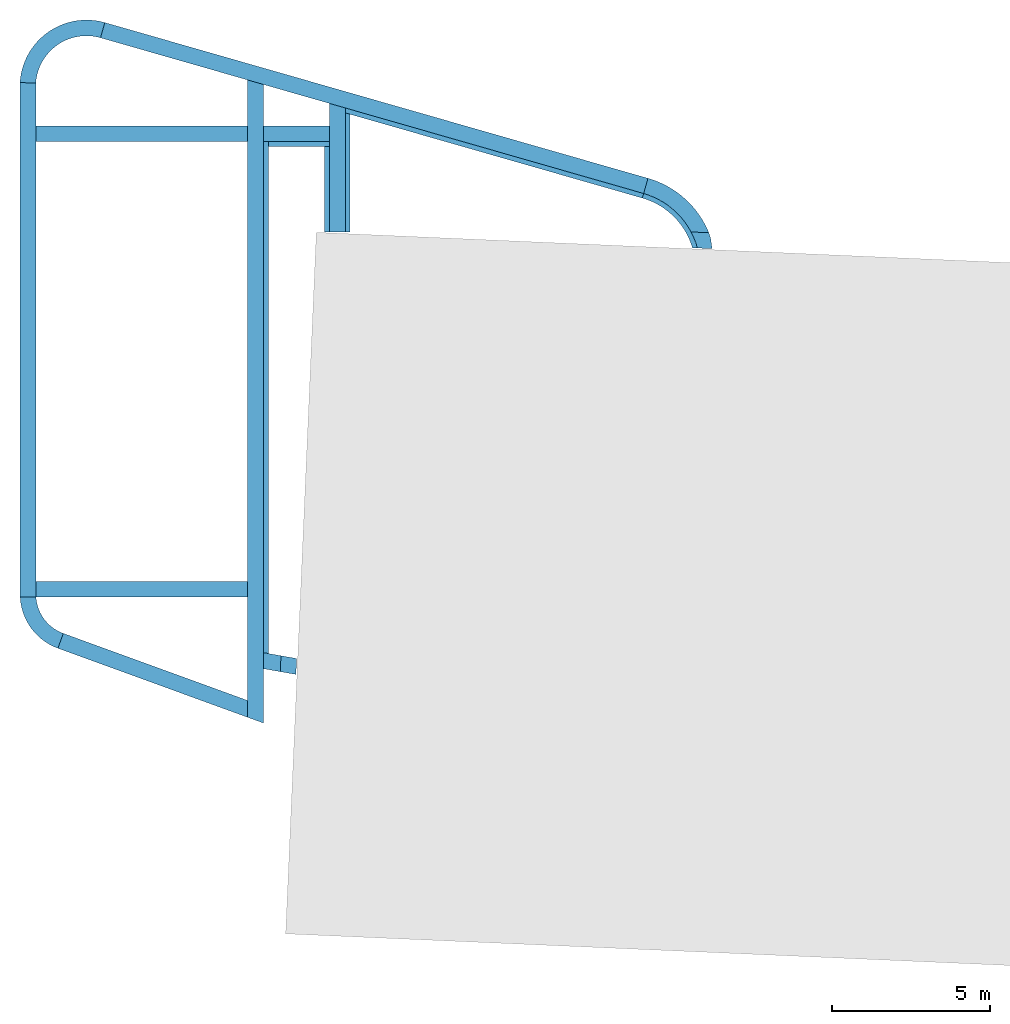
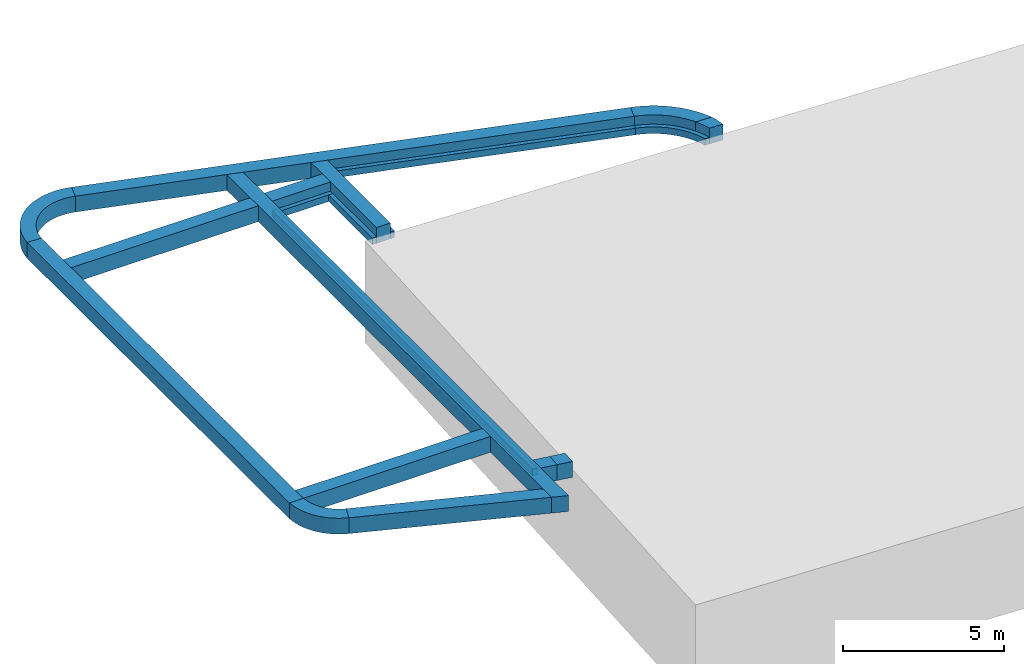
# One storey, part 1 of 2: 19 walls, 6 openings.
"""IFC2X3 building model written with IfcOpenShell, lengths in millimetres."""

import ifcopenshell
import ifcopenshell.guid

model = None  # the IFC model being written
_history = None  # IfcOwnerHistory: only IFC2X3 demands one
_inside = {}  # id of a spatial element -> (the spatial element, [elements in it])
_under = {}  # id of a project, library or spatial element -> (it, [spatial elements below it])
_declared = {}  # id of a project -> (the project, [libraries it declares])
_typed = {}  # id of a type object -> (the type object, [elements of that type])
_made_of = {}  # id of a material, layer set ... -> (it, [elements and type objects made of it])


def new_model(schema):
    """Start an empty IFC model of exactly this schema.

    Asked for "IFC4X3", IfcOpenShell would pick the latest addendum, in which some entities
    have other attributes; the version numbers below select the first issue.
    IFC2X3 requires an IfcOwnerHistory on every rooted entity: one is made here for all.
    """
    global model, _history
    if schema == "IFC4X3":
        model = ifcopenshell.file(schema_version=(4, 3, 0, 0))
    else:
        model = ifcopenshell.file(schema=schema)
    _inside.clear()
    _under.clear()
    _declared.clear()
    _typed.clear()
    _made_of.clear()
    _history = None
    if model.schema == "IFC2X3":
        org = make("IfcOrganization", Name="unknown")
        user = make(
            "IfcPersonAndOrganization",
            ThePerson=make("IfcPerson", FamilyName="unknown"),
            TheOrganization=org,
        )
        app = make(
            "IfcApplication",
            ApplicationDeveloper=org,
            Version="unknown",
            ApplicationFullName="unknown",
            ApplicationIdentifier="unknown",
        )
        _history = make(
            "IfcOwnerHistory",
            OwningUser=user,
            OwningApplication=app,
            ChangeAction="ADDED",
            CreationDate=0,
        )
    return model


def make(cls, **values):
    """One entity of the class cls with the attributes given. An attribute that is None is left unset."""
    return model.create_entity(
        cls, **{name: value for name, value in values.items() if value is not None}
    )


def entity(cls, *values):
    """Any entity or typed value of the class cls, its attributes in the order of the schema. None: left unset."""
    e = model.create_entity(cls)
    for i, value in enumerate(values):
        if value is not None:
            e[i] = value
    return e


def rooted(cls, **values):
    """An entity with a GlobalId (a new one), such as an element, a storey or a relation."""
    return make(cls, GlobalId=ifcopenshell.guid.new(), OwnerHistory=_history, **values)


def si_unit(unit_type, name, prefix=None):
    """IfcSIUnit, for example si_unit("LENGTHUNIT", "METRE", prefix="MILLI")."""
    return make("IfcSIUnit", UnitType=unit_type, Prefix=prefix, Name=name)


def converted_unit(unit_type, name, factor, base, dimensions=None, offset=None):
    """IfcConversionBasedUnit, such as the inch: factor (a typed value) times the base unit."""
    return make(
        "IfcConversionBasedUnit"
        if offset is None
        else "IfcConversionBasedUnitWithOffset",
        ConversionOffset=offset,
        Dimensions=None
        if dimensions is None
        else entity("IfcDimensionalExponents", *dimensions),
        UnitType=unit_type,
        Name=name,
        ConversionFactor=make(
            "IfcMeasureWithUnit", ValueComponent=factor, UnitComponent=base
        ),
    )


def derived_unit(unit_type, elements):
    """IfcDerivedUnit: a product of units, each with its exponent."""
    return make(
        "IfcDerivedUnit",
        Elements=[
            make("IfcDerivedUnitElement", Unit=unit, Exponent=power)
            for unit, power in elements
        ],
        UnitType=unit_type,
    )


def assignment(units):
    """IfcUnitAssignment: the units of a project."""
    return None if units is None else make("IfcUnitAssignment", Units=units)


def point(xyz):
    """IfcCartesianPoint."""
    return None if xyz is None else make("IfcCartesianPoint", Coordinates=xyz)


def direction(xyz):
    """IfcDirection."""
    return None if xyz is None else make("IfcDirection", DirectionRatios=xyz)


def frame(location, z_axis=None, x_axis=None):
    """IfcAxis2Placement3D, a coordinate frame: its origin and axes. An axis left out is left unset."""
    return make(
        "IfcAxis2Placement3D",
        Location=point(location),
        Axis=direction(z_axis),
        RefDirection=direction(x_axis),
    )


def frame_2d(location, x_axis=None):
    """IfcAxis2Placement2D, a coordinate frame in the plane: its origin and x axis."""
    return make(
        "IfcAxis2Placement2D", Location=point(location), RefDirection=direction(x_axis)
    )


def origin():
    """The frame at (0, 0, 0) with its axes left unset."""
    return frame((0.0, 0.0, 0.0))


def origin_2d_with_axis():
    """The frame at (0, 0) in the plane with the x axis (1, 0) written out."""
    return frame_2d((0.0, 0.0), x_axis=(1.0, 0.0))


def place(relative_to, where):
    """IfcLocalPlacement: puts the frame where relative to a parent placement (None: the world)."""
    return make(
        "IfcLocalPlacement", PlacementRelTo=relative_to, RelativePlacement=where
    )


def context(
    kind, dimensions, precision=None, world=None, true_north=None, identifier=None
):
    """IfcGeometricRepresentationContext, for example the 3D "Model" context."""
    return make(
        "IfcGeometricRepresentationContext",
        ContextIdentifier=identifier,
        ContextType=kind,
        CoordinateSpaceDimension=dimensions,
        Precision=precision,
        WorldCoordinateSystem=world,
        TrueNorth=true_north,
    )


def subcontext(parent, identifier, kind, view, scale=None):
    """IfcGeometricRepresentationSubContext, for example "Body" below "Model"."""
    return make(
        "IfcGeometricRepresentationSubContext",
        ContextIdentifier=identifier,
        ContextType=kind,
        ParentContext=parent,
        TargetScale=scale,
        TargetView=view,
    )


def project(units=None, contexts=None):
    """IfcProject with its units and contexts."""
    return rooted(
        "IfcProject",
        Name="project",
        RepresentationContexts=contexts,
        UnitsInContext=assignment(units),
    )


def spatial(cls, under=None, at=None, **own):
    """A site, building, storey or space (cls), placed at a placement, below another one or the project."""
    s = rooted(cls, ObjectPlacement=at, **own)
    if under is not None:
        _under.setdefault(under.id(), (under, []))[1].append(s)
    return s


def polyline(points):
    """IfcPolyline through the points."""
    return make("IfcPolyline", Points=[point(p) for p in points])


def circle_curve(where, radius):
    """IfcCircle in the frame where."""
    return make("IfcCircle", Position=where, Radius=radius)


def parameter(value):
    """IfcParameterValue: where a trimmed curve begins or ends, as a parameter of its basis curve."""
    return model.create_entity("IfcParameterValue", value)


def trimmed(basis, trim1, trim2, sense, master):
    """IfcTrimmedCurve: the piece of a basis curve between two trims."""
    return make(
        "IfcTrimmedCurve",
        BasisCurve=basis,
        Trim1=trim1,
        Trim2=trim2,
        SenseAgreement=sense,
        MasterRepresentation=master,
    )


def segment(curve, same_sense, transition):
    """IfcCompositeCurveSegment."""
    return make(
        "IfcCompositeCurveSegment",
        Transition=transition,
        SameSense=same_sense,
        ParentCurve=curve,
    )


def composite_curve(segments, self_intersect=None):
    """IfcCompositeCurve: segments joined end to end."""
    return make("IfcCompositeCurve", Segments=segments, SelfIntersect=self_intersect)


def profile(cls, at=None, kind="AREA", **sizes):
    """A parametric profile (cls). Its sizes go by their IFC names, for example OverallWidth=200.0."""
    return make(cls, ProfileType=kind, Position=at, **sizes)


def rectangle(**sizes):
    """IfcRectangleProfileDef."""
    return profile("IfcRectangleProfileDef", **sizes)


def outline(outer, holes=None, kind="AREA"):
    """IfcArbitraryClosedProfileDef: a profile drawn as a closed curve; with holes, ...WithVoids."""
    if holes is None:
        return make("IfcArbitraryClosedProfileDef", ProfileType=kind, OuterCurve=outer)
    return make(
        "IfcArbitraryProfileDefWithVoids",
        ProfileType=kind,
        OuterCurve=outer,
        InnerCurves=holes,
    )


def extrude(swept, where, along, depth):
    """IfcExtrudedAreaSolid: the profile swept, set in the frame where, extruded along a direction by depth."""
    return make(
        "IfcExtrudedAreaSolid",
        SweptArea=swept,
        Position=where,
        ExtrudedDirection=direction(along),
        Depth=depth,
    )


def shape(context_of_items, identifier, shape_type, items):
    """IfcShapeRepresentation: the items that make up one representation, for example the "Body"."""
    return make(
        "IfcShapeRepresentation",
        ContextOfItems=context_of_items,
        RepresentationIdentifier=identifier,
        RepresentationType=shape_type,
        Items=items,
    )


def material(Name=None, Category=None):
    """IfcMaterial."""
    return make("IfcMaterial", Name=Name, Category=Category)


def layer(
    of_material, thickness, ventilated=None, Name=None, Category=None, Priority=None
):
    """IfcMaterialLayer: one layer of a wall or slab, of a material (None: an air gap)."""
    return make(
        "IfcMaterialLayer",
        Material=of_material,
        LayerThickness=thickness,
        IsVentilated=ventilated,
        Name=Name,
        Category=Category,
        Priority=Priority,
    )


def layer_set(layers, Name=None):
    """IfcMaterialLayerSet."""
    return make("IfcMaterialLayerSet", MaterialLayers=layers, LayerSetName=Name)


def layer_usage(for_layer_set, set_direction, sense, offset, extent=None):
    """IfcMaterialLayerSetUsage: how a layer set lies in its element."""
    return make(
        "IfcMaterialLayerSetUsage",
        ForLayerSet=for_layer_set,
        LayerSetDirection=set_direction,
        DirectionSense=sense,
        OffsetFromReferenceLine=offset,
        ReferenceExtent=extent,
    )


def made_of(thing, what):
    """Note that an element or type object is made of a material, layer set ...; save() writes the relation."""
    if what is not None:
        _made_of.setdefault(what.id(), (what, []))[1].append(thing)
    return thing


def type_object(cls, material=None, **own):
    """A type object (cls), such as IfcWallType, which elements share."""
    return made_of(rooted(cls, **own), material)


def element(
    cls,
    number,
    at=None,
    inside=None,
    cuts=None,
    type_object=None,
    material=None,
    context=None,
    identifier="Body",
    shape_type=None,
    held_by="IfcProductDefinitionShape",
    body=None,
    shapes=None,
    **own,
):
    """One element of the class cls, such as IfcWall. Its Tag is "e" and its number.

    at: its placement. inside: the storey or other place that contains it. cuts: it is an
    opening in that element (IfcRelVoidsElement). A single representation is given by context,
    identifier, shape_type and body (its items); several are given by shapes. held_by: the class
    of the entity that holds the representations. save() writes the other relations.
    """
    e = rooted(cls, Tag="e%d" % number, ObjectPlacement=at, **own)
    if body is not None:
        shapes = [shape(context, identifier, shape_type, body)]
    if shapes is not None:
        e.Representation = make(held_by, Representations=shapes)
    if inside is not None:
        _inside.setdefault(inside.id(), (inside, []))[1].append(e)
    if cuts is not None:
        rooted(
            "IfcRelVoidsElement", RelatingBuildingElement=cuts, RelatedOpeningElement=e
        )
    if type_object is not None:
        _typed.setdefault(type_object.id(), (type_object, []))[1].append(e)
    return made_of(e, material)


def aggregate(whole, parts):
    """IfcRelAggregates: a whole, such as a stair, and the parts it consists of."""
    return rooted("IfcRelAggregates", RelatingObject=whole, RelatedObjects=parts)


def save(model, path):
    """Write the relations noted so far, then the file.

    IfcRelAggregates (storeys below a building ...), IfcRelContainedInSpatialStructure (elements
    in a storey), IfcRelDefinesByType, IfcRelAssociatesMaterial and IfcRelDeclares: one each for
    every whole, place, type object, material and project.
    """
    for whole, parts in _under.values():
        aggregate(whole, parts)
    for where, things in _inside.values():
        rooted(
            "IfcRelContainedInSpatialStructure",
            RelatedElements=things,
            RelatingStructure=where,
        )
    for kind, things in _typed.values():
        rooted("IfcRelDefinesByType", RelatedObjects=things, RelatingType=kind)
    for what, things in _made_of.values():
        rooted("IfcRelAssociatesMaterial", RelatedObjects=things, RelatingMaterial=what)
    for by, libraries in _declared.values():
        rooted("IfcRelDeclares", RelatingContext=by, RelatedDefinitions=libraries)
    model.write(path)


model = new_model("IFC2X3")

# Units and contexts
model_context = context("Model", 3, precision=0.01, world=origin(), true_north=direction((6.12303176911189e-17, 1.0)))
context_of_model = context(None, 3, precision=0.01, world=origin(), true_north=direction((6.12303176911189e-17, 1.0)))
body_context = subcontext(model_context, "Body", "Model", "MODEL_VIEW")
ifc_project = project(units=[si_unit("LENGTHUNIT", "METRE", prefix="MILLI"), si_unit("AREAUNIT", "SQUARE_METRE"), si_unit("VOLUMEUNIT", "CUBIC_METRE"), converted_unit("PLANEANGLEUNIT", "DEGREE", entity("IfcRatioMeasure", 0.0174532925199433), si_unit("PLANEANGLEUNIT", "RADIAN"), dimensions=[0, 0, 0, 0, 0, 0, 0]), si_unit("MASSUNIT", "GRAM", prefix="KILO"), derived_unit("MASSDENSITYUNIT", [(si_unit("MASSUNIT", "GRAM", prefix="KILO"), 1), (si_unit("LENGTHUNIT", "METRE"), -3)]), derived_unit("MOMENTOFINERTIAUNIT", [(si_unit("LENGTHUNIT", "METRE"), 4)]), si_unit("TIMEUNIT", "SECOND"), si_unit("FREQUENCYUNIT", "HERTZ"), si_unit("THERMODYNAMICTEMPERATUREUNIT", "DEGREE_CELSIUS"), derived_unit("THERMALTRANSMITTANCEUNIT", [(si_unit("MASSUNIT", "GRAM", prefix="KILO"), 1), (si_unit("THERMODYNAMICTEMPERATUREUNIT", "KELVIN"), -1), (si_unit("TIMEUNIT", "SECOND"), -3)]), derived_unit("VOLUMETRICFLOWRATEUNIT", [(si_unit("LENGTHUNIT", "METRE"), 3), (si_unit("TIMEUNIT", "SECOND"), -1)]), si_unit("ELECTRICCURRENTUNIT", "AMPERE"), si_unit("ELECTRICVOLTAGEUNIT", "VOLT"), si_unit("POWERUNIT", "WATT"), si_unit("FORCEUNIT", "NEWTON", prefix="KILO"), si_unit("ILLUMINANCEUNIT", "LUX"), si_unit("LUMINOUSFLUXUNIT", "LUMEN"), si_unit("LUMINOUSINTENSITYUNIT", "CANDELA"), derived_unit("USERDEFINED", [(si_unit("MASSUNIT", "GRAM", prefix="KILO"), -1), (si_unit("LENGTHUNIT", "METRE"), -2), (si_unit("TIMEUNIT", "SECOND"), 3), (si_unit("LUMINOUSFLUXUNIT", "LUMEN"), 1)]), derived_unit("LINEARVELOCITYUNIT", [(si_unit("LENGTHUNIT", "METRE"), 1), (si_unit("TIMEUNIT", "SECOND"), -1)]), si_unit("PRESSUREUNIT", "PASCAL"), derived_unit("USERDEFINED", [(si_unit("LENGTHUNIT", "METRE"), -2), (si_unit("MASSUNIT", "GRAM", prefix="KILO"), 1), (si_unit("TIMEUNIT", "SECOND"), -2)]), derived_unit("LINEARFORCEUNIT", [(si_unit("MASSUNIT", "GRAM", prefix="KILO"), 1), (si_unit("LENGTHUNIT", "METRE"), 1), (si_unit("TIMEUNIT", "SECOND"), -2), (si_unit("LENGTHUNIT", "METRE"), -1)]), derived_unit("PLANARFORCEUNIT", [(si_unit("MASSUNIT", "GRAM", prefix="KILO"), 1), (si_unit("LENGTHUNIT", "METRE"), 1), (si_unit("TIMEUNIT", "SECOND"), -2), (si_unit("LENGTHUNIT", "METRE"), -2)])], contexts=[model_context, context_of_model])

# Site, building, storey
site_placement = place(None, origin())
site = spatial("IfcSite", under=ifc_project, at=site_placement, Name="Default", CompositionType="ELEMENT")
building_placement = place(site_placement, origin())
building = spatial("IfcBuilding", under=site, at=building_placement, Name="IFc", CompositionType="ELEMENT")
storey_placement = place(building_placement, frame((0.0, 0.0, -4000.0)))
storey = spatial("IfcBuildingStorey", under=building, at=storey_placement, Name="-01 kelder", CompositionType="ELEMENT", Elevation=-4000.0)

# Walls
ifc_material = material(Name="IMd_beton_IHWG")
ifc_layer_1 = layer(ifc_material, 500.0)
ifc_layer_set_1 = layer_set([ifc_layer_1], Name="Basic Wall:NLRS_16_WA Funderingsbalk_beton_ihwg_500x600")
ifc_layer_usage_1 = layer_usage(ifc_layer_set_1, "AXIS2", "NEGATIVE", 250.0)
wall_type_1 = type_object("IfcWallType", Name="Basic Wall:NLRS_16_WA Funderingsbalk_beton_ihwg_500x600", PredefinedType="STANDARD", material=ifc_layer_set_1)
wall_1_placement = place(storey_placement, frame((9975.0, 9742.36620902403, 2860.0), z_axis=(0.0, 0.0, 1.0), x_axis=(0.0, 1.0, 0.0)))
element("IfcWallStandardCase", 1, at=wall_1_placement, inside=storey, type_object=wall_type_1, material=ifc_layer_usage_1, Name="Basic Wall:NLRS_16_WA Funderingsbalk_beton_ihwg_500x600", ObjectType="Basic Wall:NLRS_16_WA Funderingsbalk_beton_ihwg_500x600", context=body_context, shape_type="SweptSolid", body=[
    extrude(outline(composite_curve([segment(polyline([(-278.974140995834, -6930.29688989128), (-273.394417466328, -6930.29688989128)]), True, "CONTINUOUS"), segment(trimmed(circle_curve(frame_2d((1540.26098666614, -6833.29525455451), x_axis=(1.0, 0.0)), 1816.2475718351), [parameter(182.82035819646)], [parameter(183.061493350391)], True, "PARAMETER"), False, "CONTINUOUS"), segment(polyline([(-273.786595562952, -6922.66309891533), (221.025859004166, -6922.66309891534)]), True, "CONTINUOUS"), segment(polyline([(221.025859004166, -6922.66309891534), (221.025859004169, -6422.66309891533)]), True, "CONTINUOUS"), segment(polyline([(221.025859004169, -6422.66309891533), (221.025859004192, 7477.33690108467)]), True, "CONTINUOUS"), segment(polyline([(221.025859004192, 7477.33690108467), (221.025859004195, 7977.33690108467)]), True, "CONTINUOUS"), segment(polyline([(221.025859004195, 7977.33690108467), (221.025859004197, 9328.86361493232)]), True, "CONTINUOUS"), segment(polyline([(221.025859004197, 9328.86361493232), (-278.974140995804, 9345.04565942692)]), True, "CONTINUOUS"), segment(polyline([(-278.974140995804, 9345.04565942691), (-278.974140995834, -6930.29688989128)]), True, "CONTINUOUS")], self_intersect=False)), frame((6930.29688989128, -28.9741409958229, 0.0), z_axis=(0.0, 0.0, 1.0), x_axis=(0.0, -1.0, 0.0)), (0.0, 0.0, 1.0), 600.0),
])
ifc_layer_usage_2 = layer_usage(ifc_layer_set_1, "AXIS2", "NEGATIVE", 250.0)
wall_2_placement = place(storey_placement, frame((12338.8220151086, 27674.3312293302, 2860.0), z_axis=(0.0, 0.0, 1.0), x_axis=(0.961261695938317, -0.275637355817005, 0.0)))
element("IfcWallStandardCase", 2, at=wall_2_placement, inside=storey, type_object=wall_type_1, material=ifc_layer_usage_2, Name="Basic Wall:NLRS_16_WA Funderingsbalk_beton_ihwg_500x600", ObjectType="Basic Wall:NLRS_16_WA Funderingsbalk_beton_ihwg_500x600", context=body_context, shape_type="SweptSolid", body=[
    extrude(rectangle(XDim=17864.4900576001, YDim=500.000000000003, at=frame_2d((8932.24502880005, 5.11590769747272e-13), x_axis=(-1.0, 0.0))), origin(), (0.0, 0.0, 1.0), 600.0),
])
ifc_layer_usage_3 = layer_usage(ifc_layer_set_1, "AXIS2", "NEGATIVE", 250.0)
wall_3_placement = place(storey_placement, frame((11008.5469086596, 8367.57655878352, 2860.0), z_axis=(0.0, 0.0, 1.0), x_axis=(0.939692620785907, -0.342020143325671, 0.0)))
element("IfcWallStandardCase", 3, at=wall_3_placement, inside=storey, type_object=wall_type_1, material=ifc_layer_usage_3, Name="Basic Wall:NLRS_16_WA Funderingsbalk_beton_ihwg_500x600", ObjectType="Basic Wall:NLRS_16_WA Funderingsbalk_beton_ihwg_500x600", context=body_context, shape_type="SweptSolid", body=[
    extrude(outline(polyline([(6387.15043026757, -250.0), (6205.16531313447, 250.0), (0.0, 250.0), (0.0, -250.0), (6387.15043026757, -250.0)])), origin(), (0.0, 0.0, 1.0), 600.0),
])
ifc_layer_usage_4 = layer_usage(ifc_layer_set_1, "AXIS2", "POSITIVE", -250.0)
wall_4_placement = place(storey_placement, frame((9974.54103596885, 26002.5670488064, 2860.0)))
element("IfcWallStandardCase", 4, at=wall_4_placement, inside=storey, type_object=wall_type_1, material=ifc_layer_usage_4, Name="Basic Wall:NLRS_16_WA Funderingsbalk_beton_ihwg_500x600", ObjectType="Basic Wall:NLRS_16_WA Funderingsbalk_beton_ihwg_500x600", context=body_context, shape_type="SweptSolid", body=[
    extrude(outline(composite_curve([segment(trimmed(circle_curve(frame_2d((1852.67524021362, -112.417062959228), x_axis=(1.0, 0.0)), 2106.08274108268), [parameter(74.0000000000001)], [parameter(176.52765062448)], True, "PARAMETER"), True, "CONTINUOUS"), segment(polyline([(-249.541035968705, 15.1417095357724), (250.458964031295, -1.04033495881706)]), True, "CONTINUOUS"), segment(trimmed(circle_curve(frame_2d((1852.67524021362, -112.417062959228), x_axis=(1.0, 0.0)), 1606.08274108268), [parameter(74.0000000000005)], [parameter(176.023528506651)], True, "PARAMETER"), False, "CONTINUOUS"), segment(polyline([(2295.37164018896, 1431.44875655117), (2433.19031809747, 1912.07960452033)]), True, "CONTINUOUS")], self_intersect=False)), origin(), (0.0, 0.0, 1.0), 600.0),
])
ifc_layer_usage_5 = layer_usage(ifc_layer_set_1, "AXIS2", "POSITIVE", -250.0)
wall_5_placement = place(storey_placement, frame((11008.5469086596, 8367.5765587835, 2860.0)))
element("IfcWallStandardCase", 5, at=wall_5_placement, inside=storey, type_object=wall_type_1, material=ifc_layer_usage_5, Name="Basic Wall:NLRS_16_WA Funderingsbalk_beton_ihwg_500x600", ObjectType="Basic Wall:NLRS_16_WA Funderingsbalk_beton_ihwg_500x600", context=body_context, shape_type="SweptSolid", body=[
    extrude(outline(composite_curve([segment(polyline([(-1278.35936322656, 1382.42344121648), (-1278.16706997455, 1378.60205418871)]), True, "CONTINUOUS"), segment(polyline([(-1278.16706997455, 1378.60205418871), (-1277.96531871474, 1374.77321651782)]), True, "CONTINUOUS"), segment(polyline([(-1277.96531871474, 1374.77321651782), (-1263.57093123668, 1223.95716266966)]), True, "CONTINUOUS"), segment(polyline([(-1263.57093123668, 1223.95716266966), (-1236.65189549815, 1074.84574683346)]), True, "CONTINUOUS"), segment(polyline([(-1236.65189549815, 1074.84574683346), (-1197.39763269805, 928.497007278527)]), True, "CONTINUOUS"), segment(polyline([(-1197.39763269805, 928.497007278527), (-1146.08134519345, 785.929510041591)]), True, "CONTINUOUS"), segment(polyline([(-1146.08134519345, 785.929510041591), (-1083.06018531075, 648.135504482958)]), True, "CONTINUOUS"), segment(polyline([(-1083.06018531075, 648.135504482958), (-1008.7727696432, 516.074017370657)]), True, "CONTINUOUS"), segment(polyline([(-1008.7727696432, 516.074017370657), (-923.736126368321, 390.664178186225)]), True, "CONTINUOUS"), segment(polyline([(-923.736126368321, 390.664178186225), (-828.542096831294, 272.778822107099)]), True, "CONTINUOUS"), segment(polyline([(-828.542096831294, 272.778822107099), (-723.853216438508, 163.238415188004)]), True, "CONTINUOUS"), segment(polyline([(-723.853216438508, 163.238415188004), (-610.398103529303, 62.8053440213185)]), True, "CONTINUOUS"), segment(polyline([(-610.398103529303, 62.8053440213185), (-488.966388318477, -27.8213903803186)]), True, "CONTINUOUS"), segment(polyline([(-488.966388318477, -27.8213903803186), (-360.403217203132, -108.011037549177)]), True, "CONTINUOUS"), segment(polyline([(-360.403217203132, -108.011037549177), (-225.603373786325, -177.205486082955)]), True, "CONTINUOUS"), segment(polyline([(-225.603373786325, -177.205486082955), (-85.5050358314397, -234.923155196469)]), True, "CONTINUOUS"), segment(polyline([(-85.5050358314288, -234.923155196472), (85.505035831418, 234.923155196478)]), True, "CONTINUOUS"), segment(trimmed(circle_curve(frame_2d((535.688219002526, 1471.79128557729), x_axis=(1.0, 0.0)), 1316.2475718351), [parameter(183.893144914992)], [parameter(250.0)], True, "PARAMETER"), False, "CONTINUOUS"), segment(polyline([(-777.521992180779, 1382.42344121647), (-783.546908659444, 1382.42344121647)]), True, "CONTINUOUS"), segment(polyline([(-783.546908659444, 1382.42344121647), (-1278.35936322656, 1382.42344121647)]), True, "CONTINUOUS")], self_intersect=False)), origin(), (0.0, 0.0, 1.0), 600.0),
])
ifc_layer_usage_6 = layer_usage(ifc_layer_set_1, "AXIS2", "POSITIVE", -250.0)
wall_6_placement = place(storey_placement, frame((29511.2720249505, 22750.2104268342, 2860.0)))
element("IfcWallStandardCase", 6, at=wall_6_placement, inside=storey, type_object=wall_type_1, material=ifc_layer_usage_6, Name="Basic Wall:NLRS_16_WA Funderingsbalk_beton_ihwg_500x600", ObjectType="Basic Wall:NLRS_16_WA Funderingsbalk_beton_ihwg_500x600", context=body_context, shape_type="SweptSolid", body=[
    extrude(outline(composite_curve([segment(trimmed(circle_curve(frame_2d((-748.355421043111, -2609.82550447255), x_axis=(1.0, 0.0)), 2965.0), [parameter(22.4073809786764)], [parameter(73.9999999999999)], True, "PARAMETER"), True, "CONTINUOUS"), segment(polyline([(68.9093389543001, 240.315423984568), (-68.9093389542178, -240.315423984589)]), True, "CONTINUOUS"), segment(trimmed(circle_curve(frame_2d((-748.355421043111, -2609.82550447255), x_axis=(1.0, 0.0)), 2465.0), [parameter(27.9370449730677)], [parameter(74.0000000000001)], True, "PARAMETER"), False, "CONTINUOUS"), segment(polyline([(1429.38063289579, -1454.9702410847), (1992.77799285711, -1479.59870988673)]), True, "CONTINUOUS")], self_intersect=False)), origin(), (0.0, 0.0, 1.0), 600.0),
])
ifc_layer_usage_7 = layer_usage(ifc_layer_set_1, "AXIS2", "NEGATIVE", 250.0)
wall_7_placement = place(storey_placement, frame((17175.0, 5766.1341808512, 2860.0), z_axis=(0.0, 0.0, 1.0), x_axis=(0.0, 1.0, 0.0)))
element("IfcWallStandardCase", 7, at=wall_7_placement, inside=storey, type_object=wall_type_1, material=ifc_layer_usage_7, Name="Basic Wall:NLRS_16_WA Funderingsbalk_beton_ihwg_500x600", ObjectType="Basic Wall:NLRS_16_WA Funderingsbalk_beton_ihwg_500x600", context=body_context, shape_type="SweptSolid", body=[
    extrude(outline(polyline([(20189.6841211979, -250.0), (20333.0568140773, 250.0), (18883.8658191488, 250.0), (18383.8658191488, 250.0), (4483.86581914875, 250.0), (3983.86581914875, 250.0), (714.07400337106, 250.0), (181.985117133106, 250.0), (0.0, -250.0), (1719.10922740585, -250.0), (2226.80074051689, -250.0), (18383.8658191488, -250.0), (18883.8658191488, -250.0), (20189.6841211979, -250.0)])), origin(), (0.0, 0.0, 1.0), 600.0),
])
ifc_layer_usage_8 = layer_usage(ifc_layer_set_1, "AXIS2", "NEGATIVE", 250.0)
wall_8_placement = place(storey_placement, frame((16925.0, 10000.0, 2860.0), z_axis=(0.0, 0.0, 1.0), x_axis=(-1.0, 0.0, 0.0)))
element("IfcWallStandardCase", 8, at=wall_8_placement, inside=storey, type_object=wall_type_1, material=ifc_layer_usage_8, Name="Basic Wall:NLRS_16_WA Funderingsbalk_beton_ihwg_500x600", ObjectType="Basic Wall:NLRS_16_WA Funderingsbalk_beton_ihwg_500x600", context=body_context, shape_type="SweptSolid", body=[
    extrude(rectangle(XDim=6700.0, YDim=499.999999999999, at=frame_2d((3350.0, 3.83693077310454e-13), x_axis=(-1.0, 0.0))), origin(), (0.0, 0.0, 1.0), 600.0),
])

# Wall, opening
ifc_layer_usage_9 = layer_usage(ifc_layer_set_1, "AXIS2", "NEGATIVE", 250.0)
wall_9_placement = place(storey_placement, frame((19509.6696056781, 24400.0, 2860.0), z_axis=(0.0, 0.0, 1.0), x_axis=(-1.0, 0.0, 0.0)))
wall_9 = element("IfcWallStandardCase", 9, at=wall_9_placement, inside=storey, type_object=wall_type_1, material=ifc_layer_usage_9, Name="Basic Wall:NLRS_16_WA Funderingsbalk_beton_ihwg_500x600", ObjectType="Basic Wall:NLRS_16_WA Funderingsbalk_beton_ihwg_500x600", context=body_context, shape_type="SweptSolid", body=[
    extrude(rectangle(XDim=9284.66960567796, YDim=499.999999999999, at=frame_2d((4642.33480283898, -1.77635683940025e-12), x_axis=(-1.0, 0.0))), origin(), (0.0, 0.0, 1.0), 600.0),
])
opening_1_placement = place(storey_placement, frame((19509.6696056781, 24400.0, 2860.0), z_axis=(0.0, 0.0, 1.0), x_axis=(-1.0, 0.0, 0.0)))
element("IfcOpeningElement", 10, at=opening_1_placement, cuts=wall_9, Name="Basic Wall:NLRS_16_WA Funderingsbalk_beton_ihwg_500x600:1", ObjectType="Opening", context=body_context, shape_type="SweptSolid", body=[
    extrude(rectangle(XDim=600.0, YDim=499.999999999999, at=origin_2d_with_axis()), frame((2584.66960567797, 0.0, 300.0), z_axis=(-1.0, 0.0, 0.0), x_axis=(0.0, 0.0, 1.0)), (0.0, 0.0, 1.0), 499.999999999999),
])

# Wall
ifc_layer_usage_10 = layer_usage(ifc_layer_set_1, "AXIS2", "NEGATIVE", 250.0)
wall_10_placement = place(storey_placement, frame((19759.6696056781, 21297.7376053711, 2860.0), z_axis=(0.0, 0.0, 1.0), x_axis=(0.0, 1.0, 0.0)))
element("IfcWallStandardCase", 11, at=wall_10_placement, inside=storey, type_object=wall_type_1, material=ifc_layer_usage_10, Name="Basic Wall:NLRS_16_WA Funderingsbalk_beton_ihwg_500x600", ObjectType="Basic Wall:NLRS_16_WA Funderingsbalk_beton_ihwg_500x600", context=body_context, shape_type="SweptSolid", body=[
    extrude(outline(polyline([(3916.93861353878, -250.0), (4060.31130641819, 250.0), (3352.26239462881, 250.0), (2852.26239462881, 250.0), (2702.26239462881, 250.0), (0.0, 250.0), (0.0, -250.0), (3916.93861353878, -250.0)])), origin(), (0.0, 0.0, 1.0), 600.0),
])

# Wall, opening
ifc_layer_usage_11 = layer_usage(ifc_layer_set_1, "AXIS2", "NEGATIVE", 250.0)
wall_11_placement = place(storey_placement, frame((17381.6479341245, 7746.72241481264, 2860.0), z_axis=(0.0, 0.0, 1.0), x_axis=(0.984850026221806, -0.173408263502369, 0.0)))
wall_11 = element("IfcWallStandardCase", 12, at=wall_11_placement, inside=storey, type_object=wall_type_1, material=ifc_layer_usage_11, Name="Basic Wall:NLRS_16_WA Funderingsbalk_beton_ihwg_500x600", ObjectType="Basic Wall:NLRS_16_WA Funderingsbalk_beton_ihwg_500x600", context=body_context, shape_type="SweptSolid", body=[
    extrude(outline(polyline([(625.412300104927, -250.0), (559.737003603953, 250.0), (510.432201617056, 250.0), (152.307453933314, 250.0), (0.0, 250.0), (88.0379036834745, -250.0), (625.412300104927, -250.0)])), origin(), (0.0, 0.0, 1.0), 600.0),
])
opening_2_placement = place(wall_11_placement, origin())
element("IfcOpeningElement", 13, at=opening_2_placement, cuts=wall_11, Name="Basic Wall:NLRS_16_WA Funderingsbalk_beton_ihwg_500x600", ObjectType="Recess", context=body_context, shape_type="SweptSolid", body=[
    extrude(rectangle(XDim=700.000000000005, YDim=565.452211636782, at=frame_2d((1.05160324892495e-12, 8.5265128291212e-14), x_axis=(0.0, 1.0))), frame((793.158299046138, 249.931125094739, 350.0), z_axis=(0.000243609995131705, 0.999999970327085, 0.0), x_axis=(0.999999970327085, -0.000243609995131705, 0.0)), (0.0, 0.0, 1.0), 140.000000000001),
])

# Wall, openings
ifc_layer_usage_12 = layer_usage(ifc_layer_set_1, "AXIS2", "NEGATIVE", 250.0)
wall_12_placement = place(storey_placement, frame((30929.7345330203, 21045.478710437, 2860.0), z_axis=(0.0, 0.0, 1.0), x_axis=(0.999045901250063, -0.0436724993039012, 0.0)))
wall_12 = element("IfcWallStandardCase", 14, at=wall_12_placement, inside=storey, type_object=wall_type_1, material=ifc_layer_usage_12, Name="Basic Wall:NLRS_16_WA Funderingsbalk_beton_ihwg_500x600", ObjectType="Basic Wall:NLRS_16_WA Funderingsbalk_beton_ihwg_500x600", context=body_context, shape_type="SweptSolid", body=[
    extrude(outline(composite_curve([segment(trimmed(circle_curve(frame_2d((-2125.22286300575, -998.860593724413), x_axis=(0.999045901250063, 0.0436724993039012)), 2465.0), [parameter(15.1827813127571)], [parameter(27.9370449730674)], True, "PARAMETER"), False, "CONTINUOUS"), segment(polyline([(223.272998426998, -250.0), (690.153549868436, -250.0)]), True, "CONTINUOUS"), segment(polyline([(690.153549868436, -250.0), (628.727940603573, 79.1482863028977)]), True, "CONTINUOUS"), segment(polyline([(628.727940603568, 79.148286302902), (563.935410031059, 250.0)]), True, "CONTINUOUS"), segment(polyline([(563.935410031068, 250.0), (0.0, 250.0)]), True, "CONTINUOUS")], self_intersect=False)), origin(), (0.0, 0.0, 1.0), 600.0),
])
opening_3_placement = place(wall_12_placement, origin())
element("IfcOpeningElement", 15, at=opening_3_placement, cuts=wall_12, Name="Basic Wall:NLRS_16_WA Funderingsbalk_beton_ihwg_500x600", ObjectType="Recess", context=body_context, shape_type="SweptSolid", body=[
    extrude(rectangle(XDim=700.000000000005, YDim=139.999999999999, at=frame_2d((-2.1458390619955e-12, -8.5265128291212e-14), x_axis=(0.0, 1.0))), frame((770.544514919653, -299.204049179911, 350.0), z_axis=(-0.183452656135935, 0.983028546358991, 0.0), x_axis=(-0.983028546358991, -0.183452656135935, 0.0)), (0.0, 0.0, 1.0), 397.947773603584),
])
opening_4_placement = place(wall_12_placement, origin())
element("IfcOpeningElement", 16, at=opening_4_placement, cuts=wall_12, Name="Basic Wall:NLRS_16_WA Funderingsbalk_beton_ihwg_500x600", ObjectType="Recess", context=body_context, shape_type="SweptSolid", body=[
    extrude(rectangle(XDim=700.000000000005, YDim=139.999999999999, at=frame_2d((4.79616346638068e-12, 8.5265128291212e-14), x_axis=(0.0, 1.0))), frame((742.163932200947, -22.5608493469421, 350.0), z_axis=(-0.354590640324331, 0.935021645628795, 0.0), x_axis=(-0.935021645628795, -0.354590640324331, 0.0)), (0.0, 0.0, 1.0), 318.048459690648),
])

ifc_layer_usage_13 = layer_usage(ifc_layer_set_1, "AXIS2", "NEGATIVE", 250.0)
wall_13_placement = place(storey_placement, frame((18201.1207165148, 7315.39611377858, 2860.0), z_axis=(0.0, 0.0, 1.0), x_axis=(0.0436724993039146, 0.999045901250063, 0.0)))
wall_13 = element("IfcWallStandardCase", 17, at=wall_13_placement, inside=storey, type_object=wall_type_1, material=ifc_layer_usage_13, Name="Basic Wall:NLRS_16_WA Funderingsbalk_beton_ihwg_500x600", ObjectType="Basic Wall:NLRS_16_WA Funderingsbalk_beton_ihwg_500x600", context=body_context, shape_type="SweptSolid", body=[
    extrude(rectangle(XDim=570.089479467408, YDim=499.999999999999, at=frame_2d((285.044739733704, -4.68958205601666e-13), x_axis=(-1.0, 0.0))), origin(), (0.0, 0.0, 1.0), 600.0),
])
opening_5_placement = place(wall_13_placement, origin())
element("IfcOpeningElement", 18, at=opening_5_placement, cuts=wall_13, Name="Basic Wall:NLRS_16_WA Funderingsbalk_beton_ihwg_500x600", ObjectType="Opening", context=body_context, shape_type="SweptSolid", body=[
    extrude(rectangle(XDim=700.000000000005, YDim=140.0, at=frame_2d((-8.5265128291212e-14, -7.17648163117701e-13), x_axis=(1.0, 0.0))), frame((-73.3495783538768, -270.866856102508, 350.0), z_axis=(0.130473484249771, 0.991451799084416, 0.0), x_axis=(0.0, 0.0, 1.0)), (0.0, 0.0, 1.0), 565.452211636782),
])
opening_6_placement = place(wall_13_placement, origin())
element("IfcOpeningElement", 19, at=opening_6_placement, cuts=wall_13, Name="Basic Wall:NLRS_16_WA Funderingsbalk_beton_ihwg_500x600", ObjectType="Opening", context=body_context, shape_type="SweptSolid", body=[
    extrude(rectangle(XDim=700.000000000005, YDim=140.0, at=frame_2d((-8.5265128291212e-14, -7.17648163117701e-13), x_axis=(1.0, 0.0))), frame((572.147760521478, -270.866856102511, 350.0), z_axis=(0.130473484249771, 0.991451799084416, 0.0), x_axis=(0.0, 0.0, 1.0)), (0.0, 0.0, 1.0), 565.452211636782),
])

# Walls
ifc_layer_2 = layer(ifc_material, 150.0)
ifc_layer_set_2 = layer_set([ifc_layer_2], Name="Basic Wall:NLRS_16_WA Funderingsnok_beton_ihwg_250x150")
ifc_layer_usage_14 = layer_usage(ifc_layer_set_2, "AXIS2", "NEGATIVE", 75.0)
wall_type_2 = type_object("IfcWallType", Name="Basic Wall:NLRS_16_WA Funderingsnok_beton_ihwg_250x150", PredefinedType="STANDARD", material=ifc_layer_set_2)
wall_14_placement = place(storey_placement, frame((17500.0, 7966.52355026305, 2860.0), z_axis=(0.0, 0.0, 1.0), x_axis=(0.0, 1.0, 0.0)))
element("IfcWallStandardCase", 20, at=wall_14_placement, inside=storey, type_object=wall_type_2, material=ifc_layer_usage_14, Name="Basic Wall:NLRS_16_WA Funderingsnok_beton_ihwg_250x150", ObjectType="Basic Wall:NLRS_16_WA Funderingsnok_beton_ihwg_250x150", context=body_context, shape_type="SweptSolid", body=[
    extrude(outline(polyline([(16183.4764497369, -75.0), (16183.4764497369, 75.0), (26.4113711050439, 75.0), (0.0, -75.0), (16033.4764497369, -75.0), (16183.4764497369, -75.0)])), origin(), (0.0, 0.0, 1.0), 250.0),
])
ifc_layer_usage_15 = layer_usage(ifc_layer_set_2, "AXIS2", "NEGATIVE", 75.0)
wall_15_placement = place(storey_placement, frame((17575.0, 24075.0, 2860.0)))
element("IfcWallStandardCase", 21, at=wall_15_placement, inside=storey, type_object=wall_type_2, material=ifc_layer_usage_15, Name="Basic Wall:NLRS_16_WA Funderingsnok_beton_ihwg_250x150", ObjectType="Basic Wall:NLRS_16_WA Funderingsnok_beton_ihwg_250x150", context=body_context, shape_type="SweptSolid", body=[
    extrude(rectangle(XDim=1934.66960567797, YDim=150.000000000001, at=frame_2d((967.334802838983, -3.83693077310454e-13), x_axis=(-1.0, 0.0))), origin(), (0.0, 0.0, 1.0), 250.0),
])
ifc_layer_usage_16 = layer_usage(ifc_layer_set_2, "AXIS2", "NEGATIVE", 75.0)
wall_16_placement = place(storey_placement, frame((19988.9968039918, 25142.5815917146, 2860.0), z_axis=(0.0, 0.0, 1.0), x_axis=(0.961261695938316, -0.275637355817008, 0.0)))
element("IfcWallStandardCase", 22, at=wall_16_placement, inside=storey, type_object=wall_type_2, material=ifc_layer_usage_16, Name="Basic Wall:NLRS_16_WA Funderingsnok_beton_ihwg_250x150", ObjectType="Basic Wall:NLRS_16_WA Funderingsnok_beton_ihwg_250x150", context=body_context, shape_type="SweptSolid", body=[
    extrude(outline(polyline([(9812.82529011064, -75.0), (9812.82529011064, 75.0), (0.0, 75.0), (43.0118078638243, -75.0), (199.056723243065, -75.0), (9812.82529011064, -75.0)])), origin(), (0.0, 0.0, 1.0), 250.0),
])
ifc_layer_usage_17 = layer_usage(ifc_layer_set_2, "AXIS2", "NEGATIVE", 75.0)
wall_17_placement = place(storey_placement, frame((20084.6696056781, 21297.7376053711, 2860.0), z_axis=(0.0, 0.0, 1.0), x_axis=(0.0, 1.0, 0.0)))
element("IfcWallStandardCase", 23, at=wall_17_placement, inside=storey, type_object=wall_type_2, material=ifc_layer_usage_17, Name="Basic Wall:NLRS_16_WA Funderingsnok_beton_ihwg_250x150", ObjectType="Basic Wall:NLRS_16_WA Funderingsnok_beton_ihwg_250x150", context=body_context, shape_type="SweptSolid", body=[
    extrude(outline(polyline([(3717.88189029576, -75.0), (3760.89369815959, 75.0), (0.0, 75.0), (0.0, -75.0), (3717.88189029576, -75.0)])), origin(), (0.0, 0.0, 1.0), 250.0),
])
ifc_layer_usage_18 = layer_usage(ifc_layer_set_2, "AXIS2", "POSITIVE", -75.0)
wall_18_placement = place(storey_placement, frame((29421.68988431, 22437.8003756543, 2860.0)))
element("IfcWallStandardCase", 24, at=wall_18_placement, inside=storey, type_object=wall_type_2, material=ifc_layer_usage_18, Name="Basic Wall:NLRS_16_WA Funderingsnok_beton_ihwg_250x150", ObjectType="Basic Wall:NLRS_16_WA Funderingsnok_beton_ihwg_250x150", context=body_context, shape_type="SweptSolid", body=[
    extrude(outline(composite_curve([segment(polyline([(1720.18649782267, -1651.83403039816), (1680.59115886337, -1520.49909981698)]), True, "CONTINUOUS"), segment(polyline([(1680.59115886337, -1520.49909981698), (1633.75864400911, -1391.58855175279)]), True, "CONTINUOUS"), segment(polyline([(1633.75864400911, -1391.58855175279), (1579.82785887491, -1265.48040726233)]), True, "CONTINUOUS"), segment(polyline([(1579.82785887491, -1265.48040726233), (1518.96789922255, -1142.5713982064)]), True, "CONTINUOUS"), segment(polyline([(1518.96789922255, -1142.5713982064), (1436.76794407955, -999.366156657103)]), True, "CONTINUOUS"), segment(polyline([(1436.76794407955, -999.366156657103), (1345.16799128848, -861.990645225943)]), True, "CONTINUOUS"), segment(polyline([(1345.16799128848, -861.990645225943), (1244.57676416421, -731.055466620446)]), True, "CONTINUOUS"), segment(polyline([(1244.57676416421, -731.055466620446), (1135.44557108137, -607.148103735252)]), True, "CONTINUOUS"), segment(polyline([(1135.44557108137, -607.148103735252), (1018.26403732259, -490.824510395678)]), True, "CONTINUOUS"), segment(polyline([(1018.26403732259, -490.824510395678), (893.557908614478, -382.606616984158)]), True, "CONTINUOUS"), segment(polyline([(893.557908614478, -382.606616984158), (761.886692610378, -282.979988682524)]), True, "CONTINUOUS"), segment(polyline([(761.886692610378, -282.979988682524), (623.841148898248, -192.391646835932)]), True, "CONTINUOUS"), segment(polyline([(623.841148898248, -192.391646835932), (480.040638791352, -111.24806321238)]), True, "CONTINUOUS"), segment(polyline([(480.040638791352, -111.24806321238), (331.130346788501, -39.913336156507)]), True, "CONTINUOUS"), segment(polyline([(331.130346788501, -39.913336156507), (177.778466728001, 21.2924141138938)]), True, "CONTINUOUS"), segment(polyline([(177.778466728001, 21.2924141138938), (20.6728016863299, 72.0946271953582)]), True, "CONTINUOUS"), segment(polyline([(20.6728016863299, 72.0946271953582), (-20.6728016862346, -72.0946271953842)]), True, "CONTINUOUS"), segment(trimmed(circle_curve(frame_2d((-658.773280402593, -2297.41545329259), x_axis=(1.0, 0.0)), 2315.0), [parameter(16.3705805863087)], [parameter(74.0000000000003)], True, "PARAMETER"), False, "CONTINUOUS"), segment(polyline([(1562.37388953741, -1644.93537737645), (1720.18649782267, -1651.83403039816)]), True, "CONTINUOUS")], self_intersect=False)), origin(), (0.0, 0.0, 1.0), 250.0),
])
ifc_layer_usage_19 = layer_usage(ifc_layer_set_2, "AXIS2", "NEGATIVE", 75.0)
wall_19_placement = place(storey_placement, frame((19434.6696056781, 21297.7376053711, 2860.0), z_axis=(0.0, 0.0, 1.0), x_axis=(0.0, 1.0, 0.0)))
element("IfcWallStandardCase", 25, at=wall_19_placement, inside=storey, type_object=wall_type_2, material=ifc_layer_usage_19, Name="Basic Wall:NLRS_16_WA Funderingsnok_beton_ihwg_250x150", ObjectType="Basic Wall:NLRS_16_WA Funderingsnok_beton_ihwg_250x150", context=body_context, shape_type="SweptSolid", body=[
    extrude(rectangle(XDim=2702.26239462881, YDim=150.000000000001, at=frame_2d((1351.13119731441, 0.0), x_axis=(-1.0, 0.0))), origin(), (0.0, 0.0, 1.0), 250.0),
])

save(model, "model.ifc")
